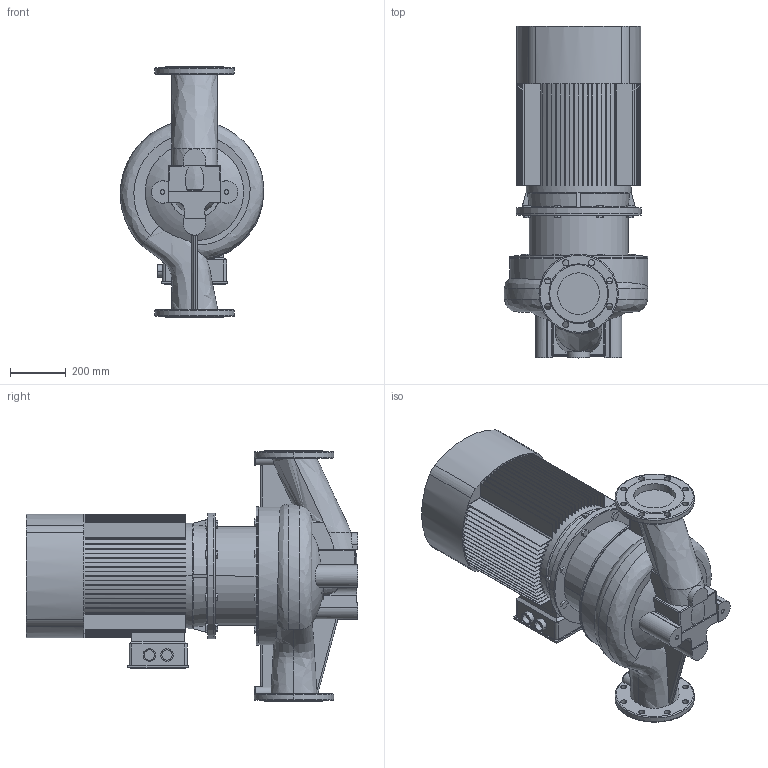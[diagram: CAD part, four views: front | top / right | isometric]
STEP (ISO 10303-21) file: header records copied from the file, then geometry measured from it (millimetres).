
FILE_DESCRIPTION (( 'STEP AP203' ), '1' );
FILE_NAME ('TD150-40_4.STEP', '2022-05-02T17:25:45', ( '' ), ( '' ), 'SwSTEP 2.0', 'SolidWorks 2019', '' );
FILE_SCHEMA (( 'CONFIG_CONTROL_DESIGN' ));
Length unit declared in the file: millimetre
Products named in the file (4): Fon_150_TD150-40_4; TD150-40_4; Pr_ch 150_TD150-40_4; ED_B5_YE2-225S-4 (37)
Assembly tree (3 placements, depth 2):
  TD150-40_4
    Pr_ch 150_TD150-40_4
    Fon_150_TD150-40_4
    ED_B5_YE2-225S-4 (37)
Bounding box: 515.06 x 1192 x 900 mm (x, y, z)
Volume: 156494388.7 mm3; surface area: 5440669.9 mm2
Topology: 5 solids, 7 shells, 792 faces, 2164 edges, 1432 vertices
Faces by surface type: plane 553, cylinder 166, torus 29, bspline 25, cone 17, sphere 2
Entity records: 33719 total; most frequent: CARTESIAN_POINT 12910, ORIENTED_EDGE 4324, DIRECTION 4205, EDGE_CURVE 2162, VERTEX_POINT 1432, AXIS2_PLACEMENT_3D 1430, VECTOR 1345, LINE 1345
